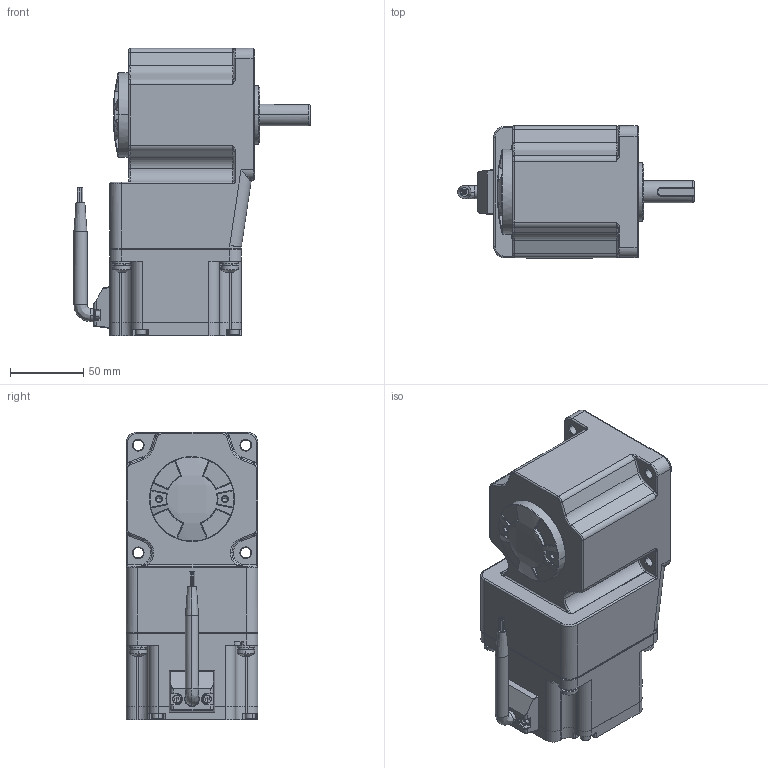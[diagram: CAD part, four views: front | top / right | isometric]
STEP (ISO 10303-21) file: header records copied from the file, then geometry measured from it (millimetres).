
FILE_DESCRIPTION (( 'STEP AP203' ), '1' );
FILE_NAME ('90RT淕儂.STEP', '2019-02-19T07:30:33', ( 'admin' ), ( '' ), 'SwSTEP 2.0', 'SolidWorks 2011', '' );
FILE_SCHEMA (( 'CONFIG_CONTROL_DESIGN' ));
Products named in the file (12): 90RT淕儂; 5GURT; 90萇儂蚾饜极; Z5BLD儂褲; Z5BLD綴傷裔; M4蹟隊; M3蹟隊; 竘堤盄; 堤盄殤; Cross recessed pan head screws GB_GB_CROSS_SCREWS_TYPE1 M6X16-16  H type-C; Plain washers--Product grade C GB_GB_FASTENER_WASHER_SMWC 6; Spring lock washers--Normal type GB_GB_FASTENER_WASHER_SW 6
Assembly tree (24 placements, depth 3):
  90RT淕儂
    Plain washers--Product grade C GB_GB_FASTENER_WASHER_SMWC 6  x4
    Spring lock washers--Normal type GB_GB_FASTENER_WASHER_SW 6  x4
    Cross recessed pan head screws GB_GB_CROSS_SCREWS_TYPE1 M6X16-16  H type-C  x4
    5GURT
    90萇儂蚾饜极
      M4蹟隊  x4
      Z5BLD綴傷裔
      M3蹟隊  x2
      堤盄殤
      Z5BLD儂褲
      竘堤盄
Bounding box: 161.5 x 90 x 196.3 mm (x, y, z)
Volume: 961206.3 mm3; surface area: 247710.6 mm2
Topology: 28 solids, 29 shells, 2548 faces, 6268 edges, 3790 vertices
Faces by surface type: cylinder 854, bspline 853, plane 582, cone 259
Full cylindrical faces by diameter (mm): 2.002 x1
Entity records: 115977 total; most frequent: CARTESIAN_POINT 65964, ORIENTED_EDGE 11484, DIRECTION 8318, EDGE_CURVE 5742, VERTEX_POINT 3506, AXIS2_PLACEMENT_3D 3285, EDGE_LOOP 2478, FACE_OUTER_BOUND 2344
